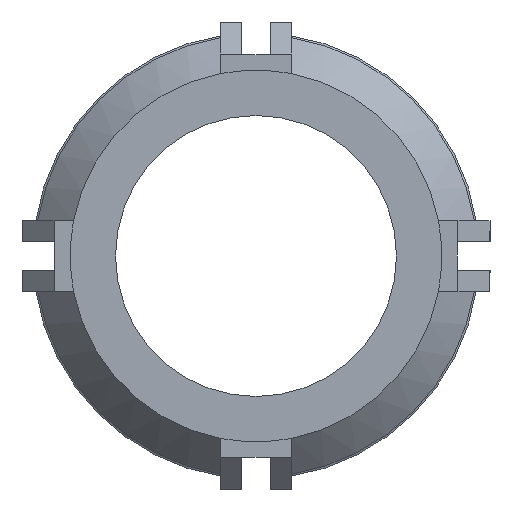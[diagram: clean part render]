
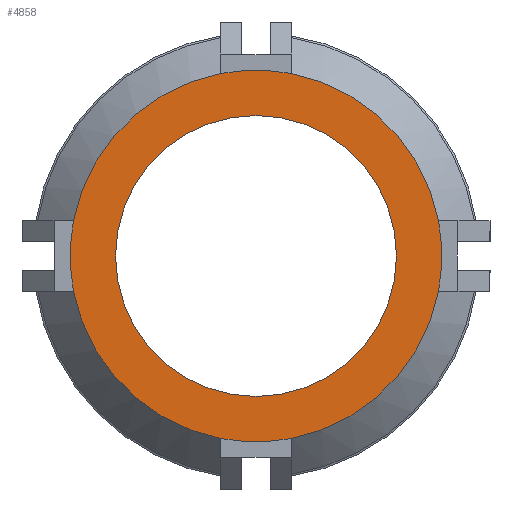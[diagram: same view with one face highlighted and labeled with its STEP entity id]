
A CAD part, front view. The second image highlights one B-rep face of the part: STEP entity #4858.
In plain terms, the highlighted planar face has unit normal (0, -1, 0).
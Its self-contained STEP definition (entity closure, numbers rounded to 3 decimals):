
#25 = VERTEX_POINT ( 'NONE', #5242 ) ;
#31 = DIRECTION ( 'NONE',  ( 0., 0., 1. ) ) ;
#53 = AXIS2_PLACEMENT_3D ( 'NONE', #4282, #1480, #2608 ) ;
#77 = VERTEX_POINT ( 'NONE', #4340 ) ;
#78 = CARTESIAN_POINT ( 'NONE',  ( 1.5, -15.748, 7.795 ) ) ;
#127 = AXIS2_PLACEMENT_3D ( 'NONE', #1451, #934, #2576 ) ;
#152 = ORIENTED_EDGE ( 'NONE', *, *, #2780, .T. ) ;
#168 = VERTEX_POINT ( 'NONE', #229 ) ;
#229 = CARTESIAN_POINT ( 'NONE',  ( 7.795, -15.748, 1.5 ) ) ;
#315 = CARTESIAN_POINT ( 'NONE',  ( 0., -15.748, 0. ) ) ;
#389 = CARTESIAN_POINT ( 'NONE',  ( -7.795, -15.748, 1.5 ) ) ;
#512 = CARTESIAN_POINT ( 'NONE',  ( -1.5, -15.748, -7.795 ) ) ;
#515 = VERTEX_POINT ( 'NONE', #512 ) ;
#520 = CARTESIAN_POINT ( 'NONE',  ( 0., -15.748, 0. ) ) ;
#563 = AXIS2_PLACEMENT_3D ( 'NONE', #315, #4400, #4423 ) ;
#579 = DIRECTION ( 'NONE',  ( 0., -1., 0. ) ) ;
#636 = CIRCLE ( 'NONE', #4262, 7.938 ) ;
#768 = EDGE_CURVE ( 'NONE', #5026, #3737, #2711, .T. ) ;
#776 = DIRECTION ( 'NONE',  ( 0., -1., 0. ) ) ;
#814 = CARTESIAN_POINT ( 'NONE',  ( 0., -15.748, 0. ) ) ;
#840 = EDGE_CURVE ( 'NONE', #5325, #5026, #636, .T. ) ;
#859 = FACE_BOUND ( 'NONE', #3466, .T. ) ;
#907 = CARTESIAN_POINT ( 'NONE',  ( 0., -15.748, 0. ) ) ;
#934 = DIRECTION ( 'NONE',  ( 0., -1., 0. ) ) ;
#993 = CARTESIAN_POINT ( 'NONE',  ( 1.5, -15.748, -7.795 ) ) ;
#1132 = ORIENTED_EDGE ( 'NONE', *, *, #4947, .T. ) ;
#1183 = CIRCLE ( 'NONE', #3939, 7.938 ) ;
#1193 = CIRCLE ( 'NONE', #4542, 7.938 ) ;
#1422 = AXIS2_PLACEMENT_3D ( 'NONE', #814, #1699, #3648 ) ;
#1428 = CARTESIAN_POINT ( 'NONE',  ( 0., -15.748, 0. ) ) ;
#1451 = CARTESIAN_POINT ( 'NONE',  ( 0., -15.748, 0. ) ) ;
#1480 = DIRECTION ( 'NONE',  ( 0., -1., 0. ) ) ;
#1623 = DIRECTION ( 'NONE',  ( 0., -1., 0. ) ) ;
#1640 = DIRECTION ( 'NONE',  ( 0., 1., 0. ) ) ;
#1699 = DIRECTION ( 'NONE',  ( 0., -1., 0. ) ) ;
#1796 = DIRECTION ( 'NONE',  ( 0., 0., 1. ) ) ;
#1944 = CIRCLE ( 'NONE', #2198, 6. ) ;
#1950 = CARTESIAN_POINT ( 'NONE',  ( 0., -15.748, 0. ) ) ;
#2143 = EDGE_CURVE ( 'NONE', #168, #5325, #2463, .T. ) ;
#2198 = AXIS2_PLACEMENT_3D ( 'NONE', #5173, #579, #5116 ) ;
#2339 = EDGE_CURVE ( 'NONE', #25, #2367, #1944, .T. ) ;
#2367 = VERTEX_POINT ( 'NONE', #5149 ) ;
#2463 = CIRCLE ( 'NONE', #563, 7.938 ) ;
#2576 = DIRECTION ( 'NONE',  ( -1., 0., 0. ) ) ;
#2608 = DIRECTION ( 'NONE',  ( 0., 0., -1. ) ) ;
#2633 = CARTESIAN_POINT ( 'NONE',  ( -1.5, -15.748, 7.795 ) ) ;
#2711 = CIRCLE ( 'NONE', #1422, 7.938 ) ;
#2780 = EDGE_CURVE ( 'NONE', #515, #3573, #3160, .T. ) ;
#2886 = PLANE ( 'NONE',  #4213 ) ;
#2974 = EDGE_CURVE ( 'NONE', #3573, #4109, #1183, .T. ) ;
#3095 = AXIS2_PLACEMENT_3D ( 'NONE', #520, #3418, #4249 ) ;
#3156 = ORIENTED_EDGE ( 'NONE', *, *, #840, .T. ) ;
#3160 = CIRCLE ( 'NONE', #127, 7.938 ) ;
#3283 = ORIENTED_EDGE ( 'NONE', *, *, #5288, .F. ) ;
#3285 = CARTESIAN_POINT ( 'NONE',  ( 0., -15.748, 0. ) ) ;
#3357 = CIRCLE ( 'NONE', #3443, 6. ) ;
#3418 = DIRECTION ( 'NONE',  ( 0., -1., 0. ) ) ;
#3443 = AXIS2_PLACEMENT_3D ( 'NONE', #3285, #3659, #4897 ) ;
#3466 = EDGE_LOOP ( 'NONE', ( #4194, #3283 ) ) ;
#3569 = EDGE_CURVE ( 'NONE', #3737, #77, #1193, .T. ) ;
#3573 = VERTEX_POINT ( 'NONE', #993 ) ;
#3648 = DIRECTION ( 'NONE',  ( 0., 0., 1. ) ) ;
#3659 = DIRECTION ( 'NONE',  ( 0., -1., 0. ) ) ;
#3660 = EDGE_CURVE ( 'NONE', #4109, #168, #4715, .T. ) ;
#3737 = VERTEX_POINT ( 'NONE', #389 ) ;
#3740 = ORIENTED_EDGE ( 'NONE', *, *, #2974, .T. ) ;
#3785 = DIRECTION ( 'NONE',  ( 1., 0., 0. ) ) ;
#3939 = AXIS2_PLACEMENT_3D ( 'NONE', #1950, #776, #4011 ) ;
#4011 = DIRECTION ( 'NONE',  ( 0., 0., 1. ) ) ;
#4109 = VERTEX_POINT ( 'NONE', #4644 ) ;
#4151 = EDGE_LOOP ( 'NONE', ( #5087, #1132, #152, #3740, #4744, #5039, #3156, #4826 ) ) ;
#4194 = ORIENTED_EDGE ( 'NONE', *, *, #2339, .F. ) ;
#4213 = AXIS2_PLACEMENT_3D ( 'NONE', #907, #1640, #31 ) ;
#4249 = DIRECTION ( 'NONE',  ( 0., 0., 1. ) ) ;
#4262 = AXIS2_PLACEMENT_3D ( 'NONE', #5322, #1623, #3785 ) ;
#4282 = CARTESIAN_POINT ( 'NONE',  ( 0., -15.748, 0. ) ) ;
#4297 = CIRCLE ( 'NONE', #3095, 7.938 ) ;
#4340 = CARTESIAN_POINT ( 'NONE',  ( -7.795, -15.748, -1.5 ) ) ;
#4364 = DIRECTION ( 'NONE',  ( 0., -1., 0. ) ) ;
#4400 = DIRECTION ( 'NONE',  ( 0., -1., 0. ) ) ;
#4423 = DIRECTION ( 'NONE',  ( 0., 0., 1. ) ) ;
#4542 = AXIS2_PLACEMENT_3D ( 'NONE', #1428, #4364, #1796 ) ;
#4644 = CARTESIAN_POINT ( 'NONE',  ( 7.795, -15.748, -1.5 ) ) ;
#4715 = CIRCLE ( 'NONE', #53, 7.938 ) ;
#4744 = ORIENTED_EDGE ( 'NONE', *, *, #3660, .T. ) ;
#4826 = ORIENTED_EDGE ( 'NONE', *, *, #768, .T. ) ;
#4858 = ADVANCED_FACE ( 'NONE', ( #859, #5338 ), #2886, .F. ) ;
#4897 = DIRECTION ( 'NONE',  ( 0., 0., 1. ) ) ;
#4947 = EDGE_CURVE ( 'NONE', #77, #515, #4297, .T. ) ;
#5026 = VERTEX_POINT ( 'NONE', #2633 ) ;
#5039 = ORIENTED_EDGE ( 'NONE', *, *, #2143, .T. ) ;
#5087 = ORIENTED_EDGE ( 'NONE', *, *, #3569, .T. ) ;
#5116 = DIRECTION ( 'NONE',  ( 0., 0., 1. ) ) ;
#5149 = CARTESIAN_POINT ( 'NONE',  ( 0., -15.748, -6. ) ) ;
#5173 = CARTESIAN_POINT ( 'NONE',  ( 0., -15.748, 0. ) ) ;
#5242 = CARTESIAN_POINT ( 'NONE',  ( 0., -15.748, 6. ) ) ;
#5288 = EDGE_CURVE ( 'NONE', #2367, #25, #3357, .T. ) ;
#5322 = CARTESIAN_POINT ( 'NONE',  ( 0., -15.748, 0. ) ) ;
#5325 = VERTEX_POINT ( 'NONE', #78 ) ;
#5338 = FACE_OUTER_BOUND ( 'NONE', #4151, .T. ) ;
